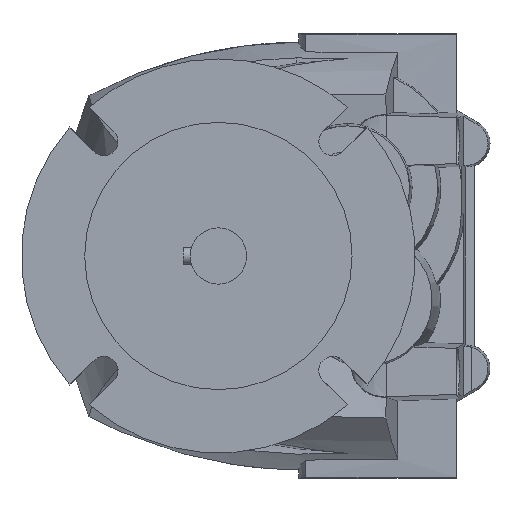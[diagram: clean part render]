
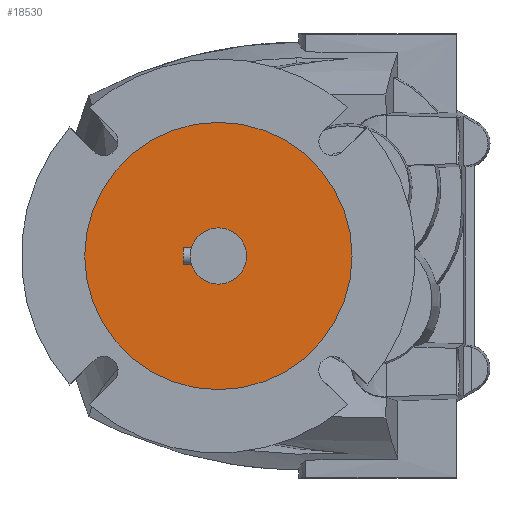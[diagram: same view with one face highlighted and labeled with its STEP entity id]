
A CAD part, left-side view. The second image highlights one B-rep face of the part: STEP entity #18530.
In plain terms, the highlighted planar face has unit normal (-1, 0, 0).
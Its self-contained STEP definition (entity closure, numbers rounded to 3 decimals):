
#1195 = CARTESIAN_POINT ( 'NONE',  ( -93., 0., 0. ) ) ;
#1196 = DIRECTION ( 'NONE',  ( -1., 0., 0. ) ) ;
#1197 = DIRECTION ( 'NONE',  ( 0., 0., -1. ) ) ;
#1221 = CARTESIAN_POINT ( 'NONE',  ( -93., 0., 0. ) ) ;
#1222 = DIRECTION ( 'NONE',  ( -1., 0., 0. ) ) ;
#1223 = DIRECTION ( 'NONE',  ( 0., 0., -1. ) ) ;
#1768 = CARTESIAN_POINT ( 'NONE',  ( -93., 0., 0. ) ) ;
#1769 = DIRECTION ( 'NONE',  ( -1., 0., 0. ) ) ;
#1770 = DIRECTION ( 'NONE',  ( 0., 0., 1. ) ) ;
#3303 = VERTEX_POINT ( 'NONE', #18029 ) ;
#6303 = EDGE_CURVE ( 'NONE', #6809, #6810, #9229, .T. ) ;
#6555 = EDGE_LOOP ( 'NONE', ( #7209, #7210 ) ) ;
#6560 = EDGE_LOOP ( 'NONE', ( #7207, #7208 ) ) ;
#6809 = VERTEX_POINT ( 'NONE', #14857 ) ;
#6810 = VERTEX_POINT ( 'NONE', #14858 ) ;
#7207 = ORIENTED_EDGE ( 'NONE', *, *, #20386, .T. ) ;
#7208 = ORIENTED_EDGE ( 'NONE', *, *, #6303, .T. ) ;
#7209 = ORIENTED_EDGE ( 'NONE', *, *, #20217, .F. ) ;
#7210 = ORIENTED_EDGE ( 'NONE', *, *, #20229, .F. ) ;
#7460 = VERTEX_POINT ( 'NONE', #14923 ) ;
#9229 = CIRCLE ( 'NONE', #10817, 47.5 ) ;
#9545 = FACE_OUTER_BOUND ( 'NONE', #6560, .T. ) ;
#9548 = FACE_BOUND ( 'NONE', #6555, .T. ) ;
#10817 = AXIS2_PLACEMENT_3D ( 'NONE', #14535, #14536, #14537 ) ;
#10951 = AXIS2_PLACEMENT_3D ( 'NONE', #15950, #15955, #15956 ) ;
#14535 = CARTESIAN_POINT ( 'NONE',  ( -93., 0., 0. ) ) ;
#14536 = DIRECTION ( 'NONE',  ( -1., 0., 0. ) ) ;
#14537 = DIRECTION ( 'NONE',  ( 0., 0., 1. ) ) ;
#14857 = CARTESIAN_POINT ( 'NONE',  ( -93., 0., -47.5 ) ) ;
#14858 = CARTESIAN_POINT ( 'NONE',  ( -93., 0., 47.5 ) ) ;
#14923 = CARTESIAN_POINT ( 'NONE',  ( -93., 0., 10. ) ) ;
#15949 = PLANE ( 'NONE',  #10951 ) ;
#15950 = CARTESIAN_POINT ( 'NONE',  ( -93., 43.5, 0. ) ) ;
#15955 = DIRECTION ( 'NONE',  ( 1., 0., 0. ) ) ;
#15956 = DIRECTION ( 'NONE',  ( 0., 0., -1. ) ) ;
#17206 = CIRCLE ( 'NONE', #18298, 10. ) ;
#17224 = CIRCLE ( 'NONE', #18302, 10. ) ;
#17377 = CIRCLE ( 'NONE', #18361, 47.5 ) ;
#18029 = CARTESIAN_POINT ( 'NONE',  ( -93., 0., -10. ) ) ;
#18298 = AXIS2_PLACEMENT_3D ( 'NONE', #1195, #1196, #1197 ) ;
#18302 = AXIS2_PLACEMENT_3D ( 'NONE', #1221, #1222, #1223 ) ;
#18361 = AXIS2_PLACEMENT_3D ( 'NONE', #1768, #1769, #1770 ) ;
#18530 = ADVANCED_FACE ( 'NONE', ( #9545, #9548 ), #15949, .F. ) ;
#20217 = EDGE_CURVE ( 'NONE', #7460, #3303, #17206, .T. ) ;
#20229 = EDGE_CURVE ( 'NONE', #3303, #7460, #17224, .T. ) ;
#20386 = EDGE_CURVE ( 'NONE', #6810, #6809, #17377, .T. ) ;
